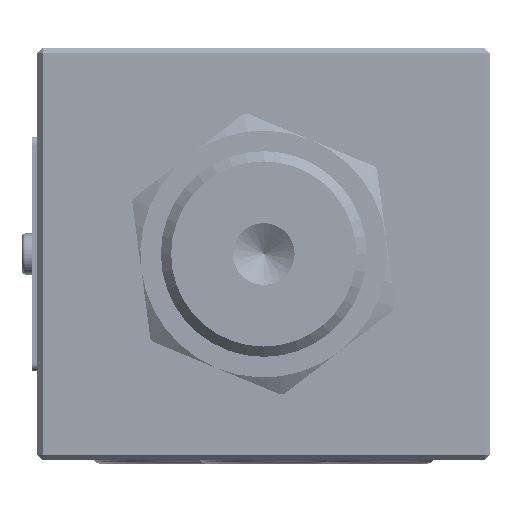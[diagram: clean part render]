
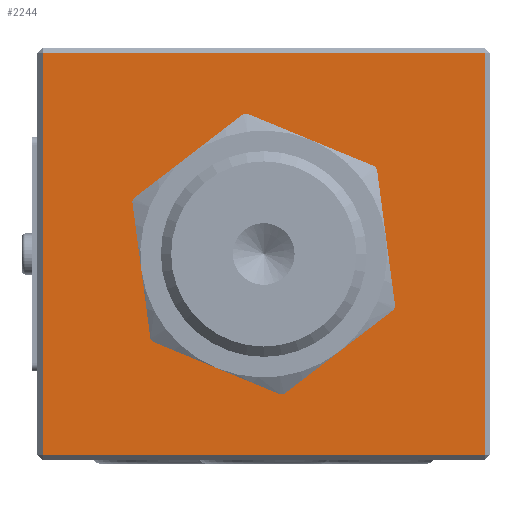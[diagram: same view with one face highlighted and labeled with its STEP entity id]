
A CAD part, left-side view. The second image highlights one B-rep face of the part: STEP entity #2244.
In plain terms, the highlighted planar face has unit normal (-1, 0, 0).
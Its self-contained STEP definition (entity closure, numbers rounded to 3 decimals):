
#1258=PLANE('',#14982);
#1573=FACE_BOUND('',#4281,.T.);
#1574=FACE_BOUND('',#4282,.T.);
#2244=ADVANCED_FACE('',(#1573,#1574),#1258,.F.);
#4281=EDGE_LOOP('',(#9204,#9205,#9206,#9207));
#4282=EDGE_LOOP('',(#9208));
#4854=CIRCLE('',#14981,11.827);
#5255=LINE('',#70104,#5935);
#5257=LINE('',#70109,#5937);
#5431=LINE('',#85119,#6111);
#5440=LINE('',#85139,#6120);
#5935=VECTOR('',#16818,1.);
#5937=VECTOR('',#16822,1.);
#6111=VECTOR('',#17362,1.);
#6120=VECTOR('',#17385,1.);
#9204=ORIENTED_EDGE('',*,*,#12656,.T.);
#9205=ORIENTED_EDGE('',*,*,#13060,.T.);
#9206=ORIENTED_EDGE('',*,*,#12654,.T.);
#9207=ORIENTED_EDGE('',*,*,#13049,.T.);
#9208=ORIENTED_EDGE('',*,*,#13149,.T.);
#11025=VERTEX_POINT('',#70098);
#11028=VERTEX_POINT('',#70103);
#11030=VERTEX_POINT('',#70108);
#11031=VERTEX_POINT('',#70110);
#11330=VERTEX_POINT('',#85810);
#12654=EDGE_CURVE('',#11025,#11028,#5255,.T.);
#12656=EDGE_CURVE('',#11031,#11030,#5257,.T.);
#13049=EDGE_CURVE('',#11028,#11031,#5431,.T.);
#13060=EDGE_CURVE('',#11030,#11025,#5440,.T.);
#13149=EDGE_CURVE('',#11330,#11330,#4854,.T.);
#14981=AXIS2_PLACEMENT_3D('',#85809,#17543,#17544);
#14982=AXIS2_PLACEMENT_3D('',#85811,#17545,#17546);
#16818=DIRECTION('',(0.,0.,-1.));
#16822=DIRECTION('',(0.,0.,1.));
#17362=DIRECTION('',(0.,-1.,0.));
#17385=DIRECTION('',(0.,1.,0.));
#17543=DIRECTION('',(1.,0.,0.));
#17544=DIRECTION('',(0.,1.,0.));
#17545=DIRECTION('',(1.,0.,0.));
#17546=DIRECTION('',(0.,-1.,0.));
#70098=CARTESIAN_POINT('',(-31.999,21.5,41.501));
#70103=CARTESIAN_POINT('',(-31.999,21.5,2.501));
#70104=CARTESIAN_POINT('',(-31.999,21.5,2.001));
#70108=CARTESIAN_POINT('',(-31.999,-21.5,41.501));
#70109=CARTESIAN_POINT('',(-31.999,-21.5,2.001));
#70110=CARTESIAN_POINT('',(-31.999,-21.5,2.501));
#85119=CARTESIAN_POINT('',(-31.999,-22.,2.501));
#85139=CARTESIAN_POINT('',(-31.999,-22.,41.501));
#85809=CARTESIAN_POINT('',(-31.999,0.,22.001));
#85810=CARTESIAN_POINT('',(-31.999,11.827,22.001));
#85811=CARTESIAN_POINT('',(-31.999,-22.,2.001));
